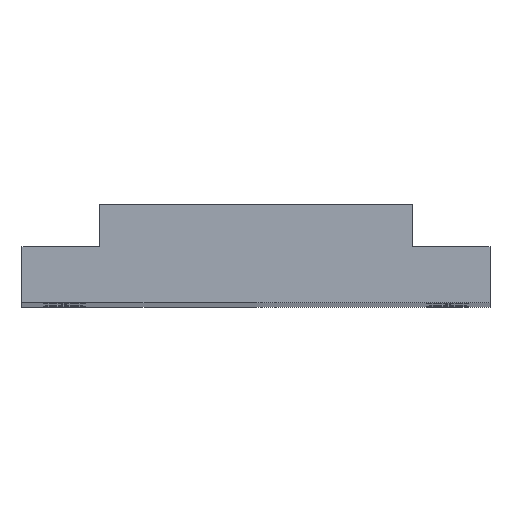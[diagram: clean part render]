
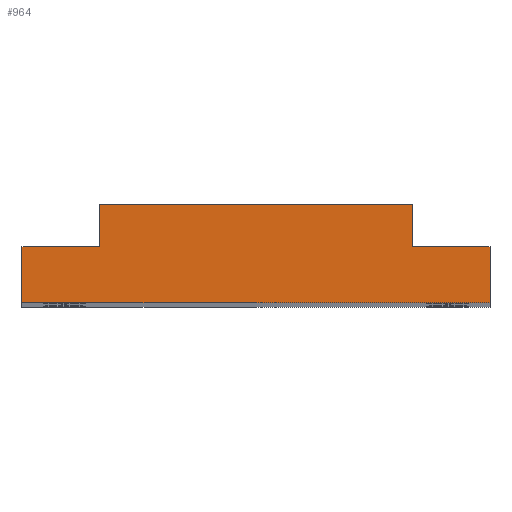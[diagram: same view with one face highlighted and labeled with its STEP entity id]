
A CAD part, top view. The second image highlights one B-rep face of the part: STEP entity #964.
In plain terms, the highlighted planar face has unit normal (0, 0, 1).
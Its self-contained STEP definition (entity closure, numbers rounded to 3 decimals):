
#22 = LINE ( 'NONE', #353, #333 ) ;
#56 = FACE_OUTER_BOUND ( 'NONE', #128, .T. ) ;
#70 = VECTOR ( 'NONE', #890, 1000. ) ;
#71 = ORIENTED_EDGE ( 'NONE', *, *, #480, .T. ) ;
#76 = CARTESIAN_POINT ( 'NONE',  ( 25., -3., 288. ) ) ;
#83 = DIRECTION ( 'NONE',  ( -1., 0., 0. ) ) ;
#95 = CARTESIAN_POINT ( 'NONE',  ( 16.75, 7.5, 288. ) ) ;
#120 = VECTOR ( 'NONE', #138, 1000. ) ;
#128 = EDGE_LOOP ( 'NONE', ( #71, #928, #678, #163, #630, #220, #985, #524 ) ) ;
#138 = DIRECTION ( 'NONE',  ( 0., -1., 0. ) ) ;
#163 = ORIENTED_EDGE ( 'NONE', *, *, #1208, .T. ) ;
#220 = ORIENTED_EDGE ( 'NONE', *, *, #873, .T. ) ;
#224 = LINE ( 'NONE', #331, #120 ) ;
#283 = CARTESIAN_POINT ( 'NONE',  ( -16.75, 3., 288. ) ) ;
#312 = VERTEX_POINT ( 'NONE', #1130 ) ;
#326 = DIRECTION ( 'NONE',  ( 0., -1., 0. ) ) ;
#330 = LINE ( 'NONE', #76, #802 ) ;
#331 = CARTESIAN_POINT ( 'NONE',  ( -16.75, 7.5, 288. ) ) ;
#333 = VECTOR ( 'NONE', #529, 1000. ) ;
#334 = CARTESIAN_POINT ( 'NONE',  ( -25., -3., 288. ) ) ;
#346 = CARTESIAN_POINT ( 'NONE',  ( -16.75, 7.5, 288. ) ) ;
#349 = CARTESIAN_POINT ( 'NONE',  ( 25., 3., 288. ) ) ;
#353 = CARTESIAN_POINT ( 'NONE',  ( 25., -3., 288. ) ) ;
#355 = AXIS2_PLACEMENT_3D ( 'NONE', #1021, #936, #1113 ) ;
#358 = DIRECTION ( 'NONE',  ( 0., 1., 0. ) ) ;
#361 = EDGE_CURVE ( 'NONE', #312, #990, #1084, .T. ) ;
#375 = VECTOR ( 'NONE', #760, 1000. ) ;
#387 = VECTOR ( 'NONE', #326, 1000. ) ;
#401 = EDGE_CURVE ( 'NONE', #967, #1133, #224, .T. ) ;
#466 = PLANE ( 'NONE',  #355 ) ;
#480 = EDGE_CURVE ( 'NONE', #921, #511, #622, .T. ) ;
#500 = CARTESIAN_POINT ( 'NONE',  ( -25., -3., 288. ) ) ;
#511 = VERTEX_POINT ( 'NONE', #500 ) ;
#524 = ORIENTED_EDGE ( 'NONE', *, *, #1008, .T. ) ;
#529 = DIRECTION ( 'NONE',  ( 1., 0., 0. ) ) ;
#557 = CARTESIAN_POINT ( 'NONE',  ( -16.75, 7.5, 288. ) ) ;
#573 = VERTEX_POINT ( 'NONE', #349 ) ;
#600 = EDGE_CURVE ( 'NONE', #511, #693, #22, .T. ) ;
#619 = LINE ( 'NONE', #692, #661 ) ;
#622 = LINE ( 'NONE', #334, #387 ) ;
#630 = ORIENTED_EDGE ( 'NONE', *, *, #361, .T. ) ;
#661 = VECTOR ( 'NONE', #792, 1000. ) ;
#672 = CARTESIAN_POINT ( 'NONE',  ( 25., -3., 288. ) ) ;
#678 = ORIENTED_EDGE ( 'NONE', *, *, #897, .T. ) ;
#692 = CARTESIAN_POINT ( 'NONE',  ( 25., 3., 288. ) ) ;
#693 = VERTEX_POINT ( 'NONE', #672 ) ;
#733 = LINE ( 'NONE', #346, #70 ) ;
#760 = DIRECTION ( 'NONE',  ( 0., 1., 0. ) ) ;
#766 = CARTESIAN_POINT ( 'NONE',  ( 16.75, 7.5, 288. ) ) ;
#792 = DIRECTION ( 'NONE',  ( -1., 0., 0. ) ) ;
#802 = VECTOR ( 'NONE', #358, 1000. ) ;
#855 = CARTESIAN_POINT ( 'NONE',  ( -16.75, 3., 288. ) ) ;
#873 = EDGE_CURVE ( 'NONE', #990, #967, #733, .T. ) ;
#890 = DIRECTION ( 'NONE',  ( -1., 0., 0. ) ) ;
#897 = EDGE_CURVE ( 'NONE', #693, #573, #330, .T. ) ;
#921 = VERTEX_POINT ( 'NONE', #994 ) ;
#928 = ORIENTED_EDGE ( 'NONE', *, *, #600, .T. ) ;
#936 = DIRECTION ( 'NONE',  ( 0., 0., 1. ) ) ;
#964 = ADVANCED_FACE ( 'NONE', ( #56 ), #466, .T. ) ;
#967 = VERTEX_POINT ( 'NONE', #557 ) ;
#985 = ORIENTED_EDGE ( 'NONE', *, *, #401, .T. ) ;
#990 = VERTEX_POINT ( 'NONE', #95 ) ;
#994 = CARTESIAN_POINT ( 'NONE',  ( -25., 3., 288. ) ) ;
#1008 = EDGE_CURVE ( 'NONE', #1133, #921, #1029, .T. ) ;
#1021 = CARTESIAN_POINT ( 'NONE',  ( 0., 0., 288. ) ) ;
#1029 = LINE ( 'NONE', #283, #1186 ) ;
#1084 = LINE ( 'NONE', #766, #375 ) ;
#1113 = DIRECTION ( 'NONE',  ( 1., 0., 0. ) ) ;
#1130 = CARTESIAN_POINT ( 'NONE',  ( 16.75, 3., 288. ) ) ;
#1133 = VERTEX_POINT ( 'NONE', #855 ) ;
#1186 = VECTOR ( 'NONE', #83, 1000. ) ;
#1208 = EDGE_CURVE ( 'NONE', #573, #312, #619, .T. ) ;
